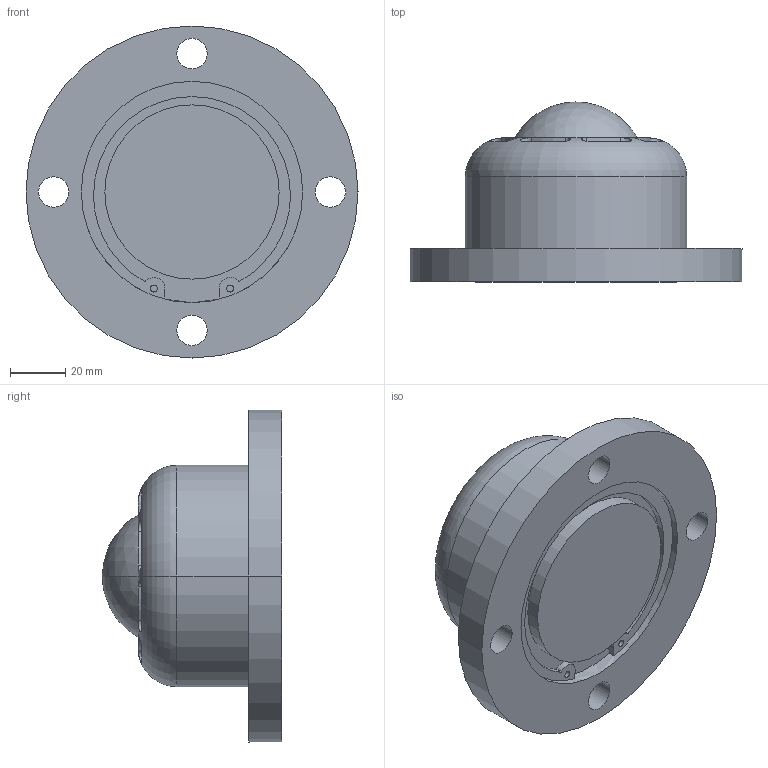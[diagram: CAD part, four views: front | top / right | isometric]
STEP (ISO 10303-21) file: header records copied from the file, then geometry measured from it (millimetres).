
FILE_DESCRIPTION (( 'STEP AP203' ), '1' );
FILE_NAME ('PVS400FM.STEP', '2015-12-09T04:50:31', ( '' ), ( '' ), 'SwSTEP 2.0', 'SolidWorks 2013', '' );
FILE_SCHEMA (( 'CONFIG_CONTROL_DESIGN' ));
Length unit declared in the file: millimetre
Products named in the file (1): PVS400FM
Bounding box: 120 x 65 x 120 mm (x, y, z)
Volume: 324812 mm3; surface area: 40070.2 mm2
Topology: 1 solids, 1 shells, 90 faces, 221 edges, 147 vertices
Faces by surface type: cylinder 68, plane 18, sphere 2, torus 2
Entity records: 3266 total; most frequent: CARTESIAN_POINT 961, DIRECTION 501, ORIENTED_EDGE 442, EDGE_CURVE 221, AXIS2_PLACEMENT_3D 213, VERTEX_POINT 147, CIRCLE 122, EDGE_LOOP 112
